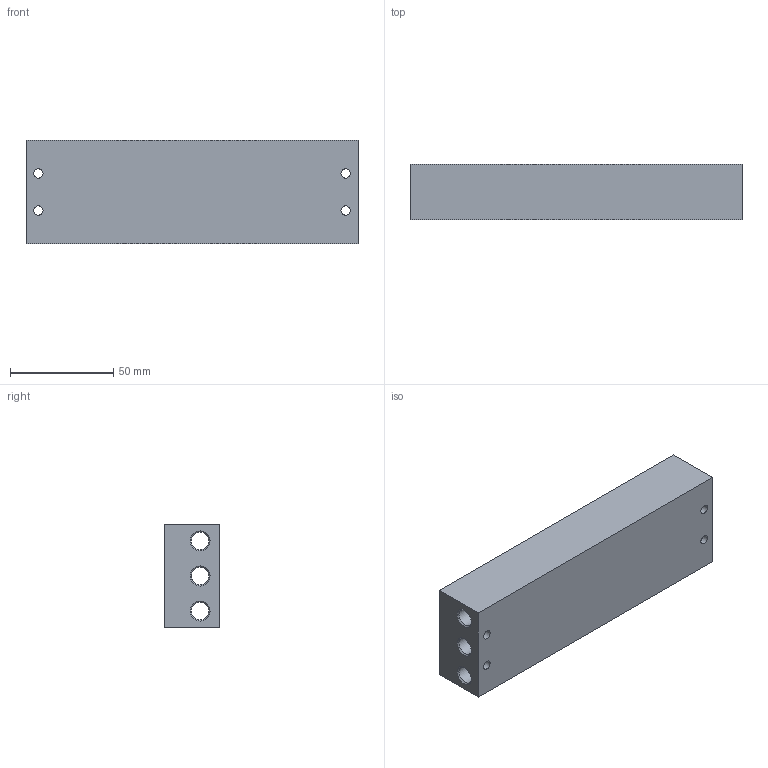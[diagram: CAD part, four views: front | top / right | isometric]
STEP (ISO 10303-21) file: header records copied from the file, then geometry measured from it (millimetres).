
FILE_DESCRIPTION( ( 'STEP AP203' ), '1' );
FILE_NAME( 'p:/temp/worker_216/temp/app_46_02018082413214302662894192d056f_000000_00_00_000000/format_2/MVSP-150-5B8-G .stp', '2018-08-24T11:22:00', ( '' ), ( '' ), ' ', 'PARTsolutions', ' ' );
FILE_SCHEMA( ( 'CONFIG_CONTROL_DESIGN' ) );
Length unit declared in the file: millimetre
Products named in the file (1): _MVSP-150-5B8-G  
Bounding box: 161 x 26.8 x 50 mm (x, y, z)
Volume: 177700.3 mm3; surface area: 47507.3 mm2
Topology: 1 solids, 1 shells, 91 faces, 217 edges, 144 vertices
Faces by surface type: cylinder 47, plane 38, cone 6
Full cylindrical faces by diameter (mm): 2 x16, 4.5 x4, 5.5 x24, 8.566 x3
Entity records: 2958 total; most frequent: CARTESIAN_POINT 976, DIRECTION 396, ORIENTED_EDGE 288, EDGE_LOOP 222, AXIS2_PLACEMENT_3D 184, EDGE_CURVE 144, FACE_OUTER_BOUND 138, VERTEX_POINT 124
